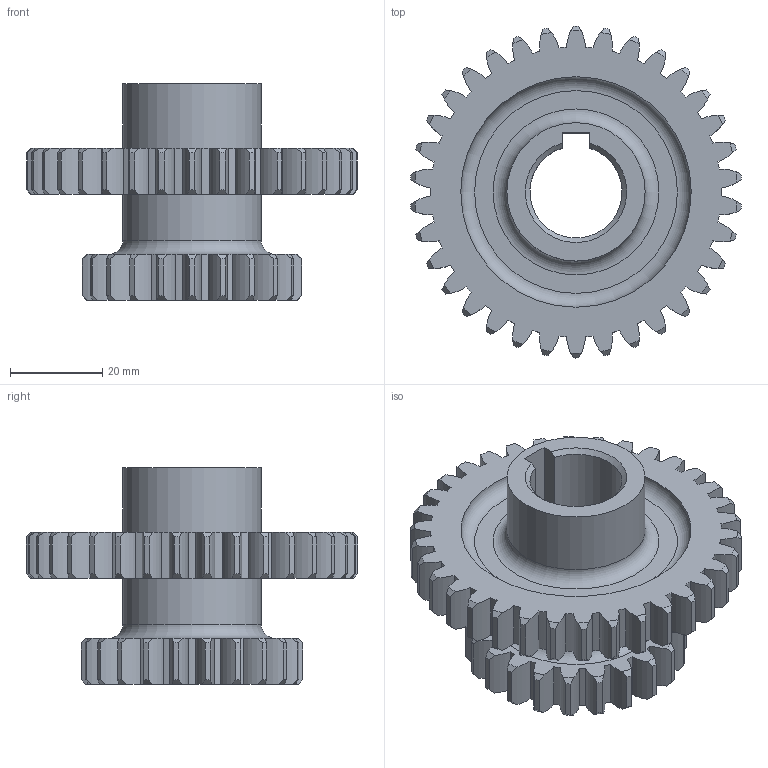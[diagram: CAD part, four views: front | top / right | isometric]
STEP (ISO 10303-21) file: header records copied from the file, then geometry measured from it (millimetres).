
FILE_DESCRIPTION(/* description */ (''),/* implementation_level */ '2;1');
FILE_NAME(/* name */ 'C:\Users\junctions\Desktop\새 폴더\서용해-스퍼기어.stp',/* time_stamp */ '2018-10-04T17:00:20+09:00',/* author */ ('junctions'),/* organization */ (''),/* preprocessor_version */ 'ST-DEVELOPER v15.2',/* originating_system */ 'Autodesk Inventor 2014',/* authorisation */ '');
FILE_SCHEMA (('AUTOMOTIVE_DESIGN { 1 0 10303 214 3 1 1 }'));
Length unit declared in the file: millimetre
Products named in the file (1): 5.스퍼기어
Bounding box: 71.79 x 72 x 47 mm (x, y, z)
Volume: 47874.6 mm3; surface area: 21383.7 mm2
Topology: 1 solids, 1 shells, 356 faces, 1045 edges, 696 vertices
Faces by surface type: cylinder 227, cone 114, plane 10, torus 5
Full cylindrical faces by diameter (mm): 30 x2
Entity records: 12349 total; most frequent: CARTESIAN_POINT 2769, DIRECTION 2098, ORIENTED_EDGE 2074, EDGE_CURVE 1037, AXIS2_PLACEMENT_3D 932, VERTEX_POINT 695, CIRCLE 575, EDGE_LOOP 370
